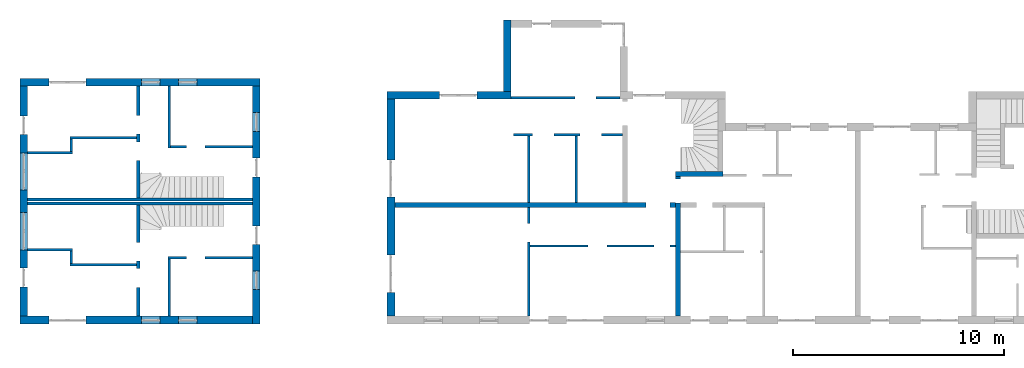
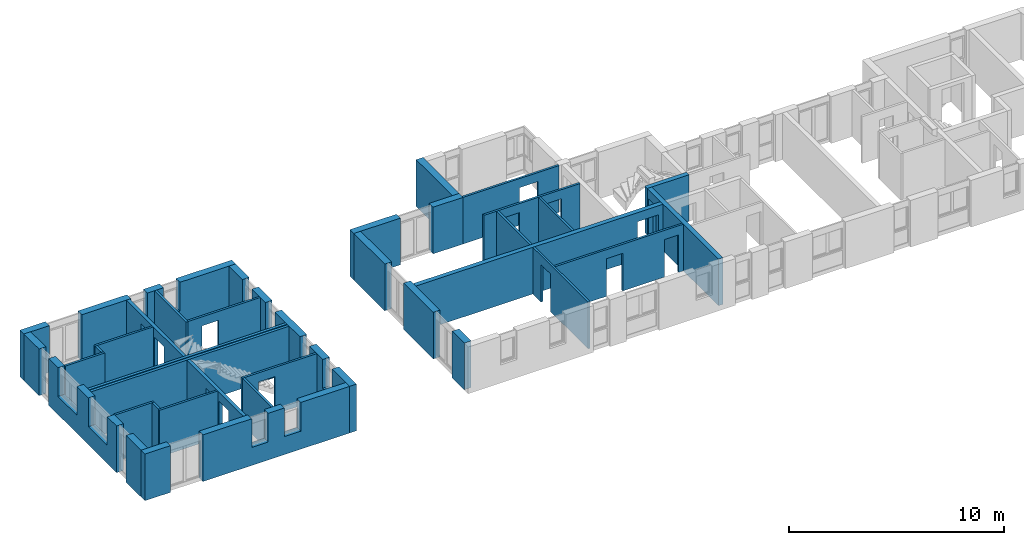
# One storey, part 1 of 42: 30 walls, 31 openings.
"""IFC2X3 building model written with IfcOpenShell, lengths in millimetres."""

from ifc_helpers import new_model, entity, si_unit, converted_unit, frame, frame_2d, origin, origin_with_axes, place, context, subcontext, project, spatial, polyline, rectangle, outline, extrude, material, layer, layer_set, layer_usage, element, save


model = new_model("IFC2X3")

# Units and contexts
model_context = context("Model", 3, precision=1e-05, world=origin())
body_context = subcontext(model_context, "Body", "Model", "MODEL_VIEW")
ifc_project = project(units=[si_unit("LENGTHUNIT", "METRE", prefix="MILLI"), converted_unit("PLANEANGLEUNIT", "DEGREE", entity("IfcPlaneAngleMeasure", 0.0174532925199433), si_unit("PLANEANGLEUNIT", "RADIAN"), dimensions=[0, 0, 0, 0, 0, 0, 0]), si_unit("AREAUNIT", "SQUARE_METRE"), si_unit("VOLUMEUNIT", "CUBIC_METRE")], contexts=[model_context])

# Building, storey
building_placement = place(None, origin())
building = spatial("IfcBuilding", under=ifc_project, at=building_placement, Name="Gebäude", CompositionType="ELEMENT")
storey_placement = place(building_placement, frame((0.0, 0.0, 2730.0), z_axis=(0.0, 0.0, 1.0), x_axis=(1.0, 0.0, 0.0)))
storey = spatial("IfcBuildingStorey", under=building, at=storey_placement, Name="OG.- Grundriss", CompositionType="ELEMENT", Elevation=2730.0)

# Wall, openings
ifc_material_1 = material(Name="Poroton")
ifc_layer_1 = layer(ifc_material_1, 365.0000000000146)
ifc_layer_set_1 = layer_set([ifc_layer_1])
ifc_layer_usage_1 = layer_usage(ifc_layer_set_1, "AXIS2", "POSITIVE", 0.0)
wall_1_placement = place(storey_placement, frame((130992.7928067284, 125274.8877324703, 0.0), z_axis=(0.0, 0.0, 1.0), x_axis=(1.0, -2.749253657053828e-11, 0.0)))
wall_1 = element("IfcWallStandardCase", 1, at=wall_1_placement, inside=storey, material=ifc_layer_usage_1, Name="<Unnamed Element>", context=body_context, shape_type="SweptSolid", body=[
    extrude(rectangle(XDim=10999.99999999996, YDim=365.0000000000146, at=frame_2d((5499.999999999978, 182.5000000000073), x_axis=(1.0, 0.0))), origin_with_axes(), (0.0, 0.0, 1.0), 2650.0),
])
opening_1_placement = place(wall_1_placement, frame((1364.999999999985, -7.494236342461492e-12, 0.0), z_axis=(0.0, 1.0, 0.0), x_axis=(0.0, 0.0, 1.0)))
element("IfcOpeningElement", 2, at=opening_1_placement, cuts=wall_1, Name="Fensteröffnung", ObjectType="Opening", context=body_context, shape_type="SweptSolid", body=[
    extrude(rectangle(XDim=2650.0, YDim=1760.0, at=frame_2d((1325.0, 880.0), x_axis=(1.0, 0.0))), origin_with_axes(), (0.0, 0.0, 1.0), 365.0000000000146),
])
opening_2_placement = place(wall_1_placement, frame((7489.999999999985, -3.477907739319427e-11, 1020.0), z_axis=(0.0, 1.0, 0.0), x_axis=(0.0, 0.0, 1.0)))
element("IfcOpeningElement", 3, at=opening_2_placement, cuts=wall_1, Name="Fensteröffnung", ObjectType="Opening", context=body_context, shape_type="SweptSolid", body=[
    extrude(rectangle(XDim=1630.0, YDim=885.0, at=frame_2d((815.0, 442.5), x_axis=(1.0, 0.0))), origin_with_axes(), (0.0, 0.0, 1.0), 365.0000000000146),
])
opening_3_placement = place(wall_1_placement, frame((5739.999999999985, -1.658918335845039e-11, 1020.0), z_axis=(0.0, 1.0, 0.0), x_axis=(0.0, 0.0, 1.0)))
element("IfcOpeningElement", 4, at=opening_3_placement, cuts=wall_1, Name="Fensteröffnung", ObjectType="Opening", context=body_context, shape_type="SweptSolid", body=[
    extrude(rectangle(XDim=1630.0, YDim=885.0, at=frame_2d((815.0, 442.5), x_axis=(1.0, 0.0))), origin_with_axes(), (0.0, 0.0, 1.0), 365.0000000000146),
])

ifc_material_2 = material(Name="Poroton")
ifc_layer_2 = layer(ifc_material_2, 365.0000000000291)
ifc_layer_set_2 = layer_set([ifc_layer_2])
ifc_layer_usage_2 = layer_usage(ifc_layer_set_2, "AXIS2", "POSITIVE", 0.0)
wall_2_placement = place(storey_placement, frame((142357.7928067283, 136889.8877324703, 0.0), z_axis=(0.0, 0.0, 1.0), x_axis=(-1.0, 0.0, 0.0)))
wall_2 = element("IfcWallStandardCase", 5, at=wall_2_placement, inside=storey, material=ifc_layer_usage_2, Name="<Unnamed Element>", context=body_context, shape_type="SweptSolid", body=[
    extrude(rectangle(XDim=11365.00000000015, YDim=365.0000000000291, at=frame_2d((5682.500000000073, 182.5000000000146), x_axis=(1.0, 0.0))), origin_with_axes(), (0.0, 0.0, 1.0), 2650.0),
])
opening_4_placement = place(wall_2_placement, frame((8240.0, 0.0, 0.0), z_axis=(0.0, 1.0, 0.0), x_axis=(0.0, 0.0, 1.0)))
element("IfcOpeningElement", 6, at=opening_4_placement, cuts=wall_2, Name="Fensteröffnung", ObjectType="Opening", context=body_context, shape_type="SweptSolid", body=[
    extrude(rectangle(XDim=2650.0, YDim=1760.0, at=frame_2d((1325.0, 880.0), x_axis=(1.0, 0.0))), origin_with_axes(), (0.0, 0.0, 1.0), 365.0000000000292),
])
opening_5_placement = place(wall_2_placement, frame((2990.0, 0.0, 1020.0), z_axis=(0.0, 1.0, 0.0), x_axis=(0.0, 0.0, 1.0)))
element("IfcOpeningElement", 7, at=opening_5_placement, cuts=wall_2, Name="Fensteröffnung", ObjectType="Opening", context=body_context, shape_type="SweptSolid", body=[
    extrude(rectangle(XDim=1630.0, YDim=885.0, at=frame_2d((815.0, 442.5), x_axis=(1.0, 0.0))), origin_with_axes(), (0.0, 0.0, 1.0), 365.0000000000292),
])
opening_6_placement = place(wall_2_placement, frame((4740.0, 0.0, 1020.0), z_axis=(0.0, 1.0, 0.0), x_axis=(0.0, 0.0, 1.0)))
element("IfcOpeningElement", 8, at=opening_6_placement, cuts=wall_2, Name="Fensteröffnung", ObjectType="Opening", context=body_context, shape_type="SweptSolid", body=[
    extrude(rectangle(XDim=1630.0, YDim=885.0, at=frame_2d((815.0, 442.5), x_axis=(1.0, 0.0))), origin_with_axes(), (0.0, 0.0, 1.0), 365.0000000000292),
])

ifc_material_3 = material(Name="Poroton")
ifc_layer_3 = layer(ifc_material_3, 365.0000000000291)
ifc_layer_set_3 = layer_set([ifc_layer_3])
ifc_layer_usage_3 = layer_usage(ifc_layer_set_3, "AXIS2", "POSITIVE", 0.0)
wall_3_placement = place(storey_placement, frame((142357.7928067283, 125274.8877321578, 0.0), z_axis=(0.0, 0.0, 1.0), x_axis=(0.0, 1.0, 0.0)))
wall_3 = element("IfcWallStandardCase", 9, at=wall_3_placement, inside=storey, material=ifc_layer_usage_3, Name="<Unnamed Element>", context=body_context, shape_type="SweptSolid", body=[
    extrude(rectangle(XDim=11250.00000031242, YDim=365.0000000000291, at=frame_2d((5625.000000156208, 182.5000000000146), x_axis=(1.0, 0.0))), origin_with_axes(), (0.0, 0.0, 1.0), 2650.0),
])
opening_7_placement = place(wall_3_placement, frame((3750.0, 0.0, 0.0), z_axis=(0.0, 1.0, 0.0), x_axis=(0.0, 0.0, 1.0)))
element("IfcOpeningElement", 10, at=opening_7_placement, cuts=wall_3, Name="Fensteröffnung", ObjectType="Opening", context=body_context, shape_type="SweptSolid", body=[
    extrude(rectangle(XDim=2650.0, YDim=885.0, at=frame_2d((1325.0, 442.5), x_axis=(1.0, 0.0))), origin_with_axes(), (0.0, 0.0, 1.0), 365.0000000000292),
])
opening_8_placement = place(wall_3_placement, frame((6955.000000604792, 0.0, 0.0), z_axis=(0.0, 1.0, 0.0), x_axis=(0.0, 0.0, 1.0)))
element("IfcOpeningElement", 11, at=opening_8_placement, cuts=wall_3, Name="Fensteröffnung", ObjectType="Opening", context=body_context, shape_type="SweptSolid", body=[
    extrude(rectangle(XDim=2650.0, YDim=885.0, at=frame_2d((1325.0, 442.5), x_axis=(1.0, 0.0))), origin_with_axes(), (0.0, 0.0, 1.0), 365.0000000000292),
])
opening_9_placement = place(wall_3_placement, frame((9105.000000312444, 0.0, 1020.0), z_axis=(0.0, 1.0, 0.0), x_axis=(0.0, 0.0, 1.0)))
element("IfcOpeningElement", 12, at=opening_9_placement, cuts=wall_3, Name="Fensteröffnung", ObjectType="Opening", context=body_context, shape_type="SweptSolid", body=[
    extrude(rectangle(XDim=1630.0, YDim=885.0, at=frame_2d((815.0, 442.5), x_axis=(1.0, 0.0))), origin_with_axes(), (0.0, 0.0, 1.0), 365.0000000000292),
])
opening_10_placement = place(wall_3_placement, frame((1625.0, 0.0, 1020.0), z_axis=(0.0, 1.0, 0.0), x_axis=(0.0, 0.0, 1.0)))
element("IfcOpeningElement", 13, at=opening_10_placement, cuts=wall_3, Name="Fensteröffnung", ObjectType="Opening", context=body_context, shape_type="SweptSolid", body=[
    extrude(rectangle(XDim=1630.0, YDim=885.0, at=frame_2d((815.0, 442.5), x_axis=(1.0, 0.0))), origin_with_axes(), (0.0, 0.0, 1.0), 365.0000000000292),
])

ifc_material_4 = material(Name="Poroton")
ifc_layer_4 = layer(ifc_material_4, 365.0)
ifc_layer_set_4 = layer_set([ifc_layer_4])
ifc_layer_usage_4 = layer_usage(ifc_layer_set_4, "AXIS2", "POSITIVE", 0.0)
wall_4_placement = place(storey_placement, frame((148357.7928067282, 135909.8877324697, 0.0), z_axis=(0.0, 0.0, 1.0), x_axis=(1.70032115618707e-14, -1.0, 0.0)))
wall_4 = element("IfcWallStandardCase", 14, at=wall_4_placement, inside=storey, material=ifc_layer_usage_4, Name="<Unnamed Element>", context=body_context, shape_type="SweptSolid", body=[
    extrude(rectangle(XDim=10269.99999999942, YDim=365.0, at=frame_2d((5134.999999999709, 182.5), x_axis=(1.0, 0.0))), origin_with_axes(), (0.0, 0.0, 1.0), 2650.0),
])
opening_11_placement = place(wall_4_placement, frame((2874.999999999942, -2.54658516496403e-11, 0.0), z_axis=(0.0, 1.0, 0.0), x_axis=(0.0, 0.0, 1.0)))
element("IfcOpeningElement", 15, at=opening_11_placement, cuts=wall_4, Name="Fensteröffnung", ObjectType="Opening", context=body_context, shape_type="SweptSolid", body=[
    extrude(rectangle(XDim=2650.0, YDim=1760.0, at=frame_2d((1325.0, 880.0), x_axis=(1.0, 0.0))), origin_with_axes(), (0.0, 0.0, 1.0), 365.0),
])
opening_12_placement = place(wall_4_placement, frame((7384.999999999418, -9.851646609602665e-11, 0.0), z_axis=(0.0, 1.0, 0.0), x_axis=(0.0, 0.0, 1.0)))
element("IfcOpeningElement", 16, at=opening_12_placement, cuts=wall_4, Name="Fensteröffnung", ObjectType="Opening", context=body_context, shape_type="SweptSolid", body=[
    extrude(rectangle(XDim=2650.0, YDim=1760.0, at=frame_2d((1325.0, 880.0), x_axis=(1.0, 0.0))), origin_with_axes(), (0.0, 0.0, 1.0), 365.0),
])

# Wall
ifc_material_5 = material(Name="Poroton")
ifc_layer_5 = layer(ifc_material_5, 365.0000000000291)
ifc_layer_set_5 = layer_set([ifc_layer_5])
ifc_layer_usage_5 = layer_usage(ifc_layer_set_5, "AXIS2", "POSITIVE", 0.0)
wall_5_placement = place(storey_placement, frame((154222.7928067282, 136274.8877324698, 0.0), z_axis=(0.0, 0.0, 1.0), x_axis=(0.0, 1.0, 0.0)))
element("IfcWallStandardCase", 17, at=wall_5_placement, inside=storey, material=ifc_layer_usage_5, Name="<Unnamed Element>", context=body_context, shape_type="SweptSolid", body=[
    extrude(rectangle(XDim=3374.999999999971, YDim=365.0000000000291, at=frame_2d((1687.499999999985, 182.5000000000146), x_axis=(1.0, 0.0))), origin_with_axes(), (0.0, 0.0, 1.0), 2650.0),
])

# Wall, opening
ifc_material_6 = material(Name="Poroton")
ifc_layer_6 = layer(ifc_material_6, 365.0000000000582)
ifc_layer_set_6 = layer_set([ifc_layer_6])
ifc_layer_usage_6 = layer_usage(ifc_layer_set_6, "AXIS2", "POSITIVE", 0.0)
wall_6_placement = place(storey_placement, frame((154222.7928067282, 136274.8877324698, 0.0), z_axis=(0.0, 0.0, 1.0), x_axis=(-1.0, 0.0, 0.0)))
wall_6 = element("IfcWallStandardCase", 18, at=wall_6_placement, inside=storey, material=ifc_layer_usage_6, Name="<Unnamed Element>", context=body_context, shape_type="SweptSolid", body=[
    extrude(rectangle(XDim=5865.0, YDim=365.0000000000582, at=frame_2d((2932.5, 182.5000000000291), x_axis=(1.0, 0.0))), origin_with_axes(), (0.0, 0.0, 1.0), 2650.0),
])
opening_13_placement = place(wall_6_placement, frame((1615.0, 0.0, 0.0), z_axis=(0.0, 1.0, 0.0), x_axis=(0.0, 0.0, 1.0)))
element("IfcOpeningElement", 19, at=opening_13_placement, cuts=wall_6, Name="Fensteröffnung", ObjectType="Opening", context=body_context, shape_type="SweptSolid", body=[
    extrude(rectangle(XDim=2650.0, YDim=1760.0, at=frame_2d((1325.0, 880.0), x_axis=(1.0, 0.0))), origin_with_axes(), (0.0, 0.0, 1.0), 365.0000000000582),
])

# Wall
ifc_material_7 = material(Name="Hlz")
ifc_layer_7 = layer(ifc_material_7, 150.0)
ifc_layer_set_7 = layer_set([ifc_layer_7])
ifc_layer_usage_7 = layer_usage(ifc_layer_set_7, "AXIS2", "POSITIVE", 0.0)
wall_7_placement = place(storey_placement, frame((141992.7928067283, 131049.8877324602, 0.0), z_axis=(0.0, 0.0, 1.0), x_axis=(-1.0, 0.0, 0.0)))
element("IfcWallStandardCase", 20, at=wall_7_placement, inside=storey, material=ifc_layer_usage_7, Name="<Unnamed Element>", context=body_context, shape_type="SweptSolid", body=[
    extrude(rectangle(XDim=10634.99999999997, YDim=150.0, at=frame_2d((5317.499999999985, 75.0), x_axis=(1.0, 0.0))), origin_with_axes(), (0.0, 0.0, 1.0), 2650.0),
])

# Wall, openings
ifc_material_8 = material(Name="Poroton")
ifc_layer_8 = layer(ifc_material_8, 365.0)
ifc_layer_set_8 = layer_set([ifc_layer_8])
ifc_layer_usage_8 = layer_usage(ifc_layer_set_8, "AXIS2", "POSITIVE", 0.0)
wall_8_placement = place(storey_placement, frame((130992.7928067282, 136524.8877324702, 0.0), z_axis=(0.0, 0.0, 1.0), x_axis=(1.336877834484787e-14, -1.0, 0.0)))
wall_8 = element("IfcWallStandardCase", 21, at=wall_8_placement, inside=storey, material=ifc_layer_usage_8, Name="<Unnamed Element>", context=body_context, shape_type="SweptSolid", body=[
    extrude(rectangle(XDim=10884.99999999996, YDim=365.0, at=frame_2d((5442.499999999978, 182.5), x_axis=(1.0, 0.0))), origin_with_axes(), (0.0, 0.0, 1.0), 2650.0),
])
opening_14_placement = place(wall_8_placement, frame((5989.999999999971, 1.455191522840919e-13, 1020.0), z_axis=(0.0, 1.0, 0.0), x_axis=(0.0, 0.0, 1.0)))
element("IfcOpeningElement", 22, at=opening_14_placement, cuts=wall_8, Name="Fensteröffnung", ObjectType="Opening", context=body_context, shape_type="SweptSolid", body=[
    extrude(rectangle(XDim=1630.0, YDim=1760.0, at=frame_2d((815.0, 880.0), x_axis=(1.0, 0.0))), origin_with_axes(), (0.0, 0.0, 1.0), 365.0000000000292),
])
opening_15_placement = place(wall_8_placement, frame((8614.99999999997, -8.949427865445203e-12, 0.0), z_axis=(0.0, 1.0, 0.0), x_axis=(0.0, 0.0, 1.0)))
element("IfcOpeningElement", 23, at=opening_15_placement, cuts=wall_8, Name="Fensteröffnung", ObjectType="Opening", context=body_context, shape_type="SweptSolid", body=[
    extrude(rectangle(XDim=2650.0, YDim=885.0, at=frame_2d((1325.0, 442.5), x_axis=(1.0, 0.0))), origin_with_axes(), (0.0, 0.0, 1.0), 364.9999999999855),
])
opening_16_placement = place(wall_8_placement, frame((3159.987487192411, -1.688003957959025e-11, 1020.0), z_axis=(0.0, 1.0, 0.0), x_axis=(0.0, 0.0, 1.0)))
element("IfcOpeningElement", 24, at=opening_16_placement, cuts=wall_8, Name="Fensteröffnung", ObjectType="Opening", context=body_context, shape_type="SweptSolid", body=[
    extrude(rectangle(XDim=1630.0, YDim=1760.0, at=frame_2d((815.0, 880.0), x_axis=(1.0, 0.0))), origin_with_axes(), (0.0, 0.0, 1.0), 365.0),
])
opening_17_placement = place(wall_8_placement, frame((1409.987487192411, -5.966103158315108e-12, 0.0), z_axis=(0.0, 1.0, 0.0), x_axis=(0.0, 0.0, 1.0)))
element("IfcOpeningElement", 25, at=opening_17_placement, cuts=wall_8, Name="Fensteröffnung", ObjectType="Opening", context=body_context, shape_type="SweptSolid", body=[
    extrude(rectangle(XDim=2650.0, YDim=885.0, at=frame_2d((1325.0, 442.5), x_axis=(1.0, 0.0))), origin_with_axes(), (0.0, 0.0, 1.0), 365.0),
])

# Wall
ifc_material_9 = material(Name="Hlz")
ifc_layer_9 = layer(ifc_material_9, 150.0)
ifc_layer_set_9 = layer_set([ifc_layer_9])
ifc_layer_usage_9 = layer_usage(ifc_layer_set_9, "AXIS2", "POSITIVE", 0.0)
wall_9_placement = place(storey_placement, frame((141992.7928067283, 131239.8877324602, 0.0), z_axis=(0.0, 0.0, 1.0), x_axis=(-1.0, 0.0, 0.0)))
element("IfcWallStandardCase", 26, at=wall_9_placement, inside=storey, material=ifc_layer_usage_9, Name="<Unnamed Element>", context=body_context, shape_type="SweptSolid", body=[
    extrude(rectangle(XDim=10634.99999999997, YDim=150.0, at=frame_2d((5317.499999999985, 75.0), x_axis=(1.0, 0.0))), origin_with_axes(), (0.0, 0.0, 1.0), 2650.0),
])

# Wall, opening
ifc_material_10 = material(Name="Hlz")
ifc_layer_10 = layer(ifc_material_10, 115.0)
ifc_layer_set_10 = layer_set([ifc_layer_10])
ifc_layer_usage_10 = layer_usage(ifc_layer_set_10, "AXIS2", "POSITIVE", 0.0)
wall_10_placement = place(storey_placement, frame((154222.7928067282, 135909.8877324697, 0.0), z_axis=(0.0, 0.0, 1.0), x_axis=(1.0, 0.0, 0.0)))
wall_10 = element("IfcWallStandardCase", 27, at=wall_10_placement, inside=storey, material=ifc_layer_usage_10, Name="<Unnamed Element>", context=body_context, shape_type="SweptSolid", body=[
    extrude(rectangle(XDim=5155.000000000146, YDim=115.0, at=frame_2d((2577.500000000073, 57.5), x_axis=(1.0, 0.0))), origin_with_axes(), (0.0, 0.0, 1.0), 2650.0),
])
opening_18_placement = place(wall_10_placement, frame((3020.000000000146, 0.0, 0.0), z_axis=(0.0, 1.0, 0.0), x_axis=(0.0, 0.0, 1.0)))
element("IfcOpeningElement", 28, at=opening_18_placement, cuts=wall_10, Name="Türöffnung", ObjectType="Opening", context=body_context, shape_type="SweptSolid", body=[
    extrude(rectangle(XDim=2135.0, YDim=1010.0, at=frame_2d((1067.5, 505.0), x_axis=(1.0, 0.0))), origin_with_axes(), (0.0, 0.0, 1.0), 115.0),
])

# Wall, openings
ifc_material_11 = material(Name="Hlz")
ifc_layer_11 = layer(ifc_material_11, 115.0)
ifc_layer_set_11 = layer_set([ifc_layer_11])
ifc_layer_usage_11 = layer_usage(ifc_layer_set_11, "AXIS2", "POSITIVE", 0.0)
wall_11_placement = place(storey_placement, frame((162002.7928067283, 129014.8877324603, 0.0), z_axis=(0.0, 0.0, 1.0), x_axis=(-1.0, 0.0, 0.0)))
wall_11 = element("IfcWallStandardCase", 29, at=wall_11_placement, inside=storey, material=ifc_layer_usage_11, Name="<Unnamed Element>", context=body_context, shape_type="SweptSolid", body=[
    extrude(rectangle(XDim=6885.0, YDim=115.0, at=frame_2d((3442.5, 57.5), x_axis=(1.0, 0.0))), origin_with_axes(), (0.0, 0.0, 1.0), 2650.0),
])
opening_19_placement = place(wall_11_placement, frame((250.0, 0.0, 0.0), z_axis=(0.0, 1.0, 0.0), x_axis=(0.0, 0.0, 1.0)))
element("IfcOpeningElement", 30, at=opening_19_placement, cuts=wall_11, Name="Türöffnung", ObjectType="Opening", context=body_context, shape_type="SweptSolid", body=[
    extrude(rectangle(XDim=2135.0, YDim=760.0, at=frame_2d((1067.5, 380.0), x_axis=(1.0, 0.0))), origin_with_axes(), (0.0, 0.0, 1.0), 115.0),
])
opening_20_placement = place(wall_11_placement, frame((3250.0, 0.0, 0.0), z_axis=(0.0, 1.0, 0.0), x_axis=(0.0, 0.0, 1.0)))
element("IfcOpeningElement", 31, at=opening_20_placement, cuts=wall_11, Name="Türöffnung", ObjectType="Opening", context=body_context, shape_type="SweptSolid", body=[
    extrude(rectangle(XDim=2135.0, YDim=885.0, at=frame_2d((1067.5, 442.5), x_axis=(1.0, 0.0))), origin_with_axes(), (0.0, 0.0, 1.0), 115.0),
])

ifc_material_12 = material(Name="Hlz")
ifc_layer_12 = layer(ifc_material_12, 115.0)
ifc_layer_set_12 = layer_set([ifc_layer_12])
ifc_layer_usage_12 = layer_usage(ifc_layer_set_12, "AXIS2", "POSITIVE", 0.0)
wall_12_placement = place(storey_placement, frame((159502.7928067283, 134274.8877324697, 0.0), z_axis=(0.0, 0.0, 1.0), x_axis=(-1.0, 0.0, 0.0)))
wall_12 = element("IfcWallStandardCase", 32, at=wall_12_placement, inside=storey, material=ifc_layer_usage_12, Name="<Unnamed Element>", context=body_context, shape_type="SweptSolid", body=[
    extrude(rectangle(XDim=5169.228627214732, YDim=115.0, at=frame_2d((2584.614313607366, 57.5), x_axis=(1.0, 0.0))), origin_with_axes(), (0.0, 0.0, 1.0), 2650.0),
])
opening_21_placement = place(wall_12_placement, frame((3255.0, 0.0, 0.0), z_axis=(0.0, 1.0, 0.0), x_axis=(0.0, 0.0, 1.0)))
element("IfcOpeningElement", 33, at=opening_21_placement, cuts=wall_12, Name="Türöffnung", ObjectType="Opening", context=body_context, shape_type="SweptSolid", body=[
    extrude(rectangle(XDim=2135.0, YDim=1010.0, at=frame_2d((1067.5, 505.0), x_axis=(1.0, 0.0))), origin_with_axes(), (0.0, 0.0, 1.0), 115.0),
])
opening_22_placement = place(wall_12_placement, frame((1000.0, 0.0, 0.0), z_axis=(0.0, 1.0, 0.0), x_axis=(0.0, 0.0, 1.0)))
element("IfcOpeningElement", 34, at=opening_22_placement, cuts=wall_12, Name="Türöffnung", ObjectType="Opening", context=body_context, shape_type="SweptSolid", body=[
    extrude(rectangle(XDim=2135.0, YDim=1010.0, at=frame_2d((1067.5, 505.0), x_axis=(1.0, 0.0))), origin_with_axes(), (0.0, 0.0, 1.0), 115.0),
])

# Walls
ifc_material_13 = material(Name="Hlz")
ifc_layer_13 = layer(ifc_material_13, 115.0)
ifc_layer_set_13 = layer_set([ifc_layer_13])
ifc_layer_usage_13 = layer_usage(ifc_layer_set_13, "AXIS2", "POSITIVE", 0.0)
wall_13_placement = place(storey_placement, frame((157367.7928067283, 131014.8877324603, 0.0), z_axis=(0.0, 0.0, 1.0), x_axis=(0.0, 0.9999999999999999, 0.0)))
element("IfcWallStandardCase", 35, at=wall_13_placement, inside=storey, material=ifc_layer_usage_13, Name="<Unnamed Element>", context=body_context, shape_type="SweptSolid", body=[
    extrude(rectangle(XDim=3145.000000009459, YDim=115.0, at=frame_2d((1572.500000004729, 57.49999999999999), x_axis=(1.0, 0.0))), origin_with_axes(), (0.0, 0.0, 1.0), 2650.0),
])
ifc_material_14 = material(Name="Hlz")
ifc_layer_14 = layer(ifc_material_14, 115.0)
ifc_layer_set_14 = layer_set([ifc_layer_14])
ifc_layer_usage_14 = layer_usage(ifc_layer_set_14, "AXIS2", "POSITIVE", 0.0)
wall_14_placement = place(storey_placement, frame((155117.7928067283, 131014.8877324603, 0.0), z_axis=(0.0, 0.0, 1.0), x_axis=(0.0, 0.9999999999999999, 0.0)))
element("IfcWallStandardCase", 36, at=wall_14_placement, inside=storey, material=ifc_layer_usage_14, Name="<Unnamed Element>", context=body_context, shape_type="SweptSolid", body=[
    extrude(rectangle(XDim=3145.000000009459, YDim=115.0, at=frame_2d((1572.500000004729, 57.49999999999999), x_axis=(1.0, 0.0))), origin_with_axes(), (0.0, 0.0, 1.0), 2650.0),
])

# Wall, opening
ifc_material_15 = material(Name="Hlz")
ifc_layer_15 = layer(ifc_material_15, 115.0)
ifc_layer_set_15 = layer_set([ifc_layer_15])
ifc_layer_usage_15 = layer_usage(ifc_layer_set_15, "AXIS2", "POSITIVE", 0.0)
wall_15_placement = place(storey_placement, frame((155117.7928067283, 125639.8877322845, 0.0), z_axis=(0.0, 0.0, 1.0), x_axis=(0.0, 0.9999999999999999, 0.0)))
wall_15 = element("IfcWallStandardCase", 37, at=wall_15_placement, inside=storey, material=ifc_layer_usage_15, Name="<Unnamed Element>", context=body_context, shape_type="SweptSolid", body=[
    extrude(rectangle(XDim=5135.000000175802, YDim=115.0, at=frame_2d((2567.500000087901, 57.49999999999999), x_axis=(1.0, 0.0))), origin_with_axes(), (0.0, 0.0, 1.0), 2650.0),
])
opening_23_placement = place(wall_15_placement, frame((3500.000332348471, 0.0, 0.0), z_axis=(0.0, 1.0, 0.0), x_axis=(0.0, 0.0, 1.0)))
element("IfcOpeningElement", 38, at=opening_23_placement, cuts=wall_15, Name="Türöffnung", ObjectType="Opening", context=body_context, shape_type="SweptSolid", body=[
    extrude(rectangle(XDim=2135.0, YDim=885.0, at=frame_2d((1067.5, 442.5), x_axis=(1.0, 0.0))), origin_with_axes(), (0.0, 0.0, 1.0), 115.0),
])

ifc_material_16 = material(Name="Hlz")
ifc_layer_16 = layer(ifc_material_16, 240.0)
ifc_layer_set_16 = layer_set([ifc_layer_16])
ifc_layer_usage_16 = layer_usage(ifc_layer_set_16, "AXIS2", "POSITIVE", 0.0)
wall_16_placement = place(storey_placement, frame((148722.7928067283, 130774.8877324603, 0.0), z_axis=(0.0, 0.0, 1.0), x_axis=(1.0, 0.0, 0.0)))
wall_16 = element("IfcWallStandardCase", 39, at=wall_16_placement, inside=storey, material=ifc_layer_usage_16, Name="<Unnamed Element>", context=body_context, shape_type="SweptSolid", body=[
    extrude(outline(polyline([(0.0, 0.0), (13280.00000000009, 0.0), (13280.00000000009, 240.0), (0.0, 240.0), (0.0, 0.0)])), origin_with_axes(), (0.0, 0.0, 1.0), 2650.0),
])
opening_24_placement = place(wall_16_placement, frame((11895.00000000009, 0.0, 0.0), z_axis=(0.0, 1.0, 0.0), x_axis=(0.0, 0.0, 1.0)))
element("IfcOpeningElement", 40, at=opening_24_placement, cuts=wall_16, Name="Türöffnung", ObjectType="Opening", context=body_context, shape_type="SweptSolid", body=[
    extrude(rectangle(XDim=2135.0, YDim=1135.0, at=frame_2d((1067.5, 567.5), x_axis=(1.0, 0.0))), origin_with_axes(), (0.0, 0.0, 1.0), 240.0),
])

ifc_material_17 = material(Name="Hlz")
ifc_layer_17 = layer(ifc_material_17, 240.0)
ifc_layer_set_17 = layer_set([ifc_layer_17])
ifc_layer_usage_17 = layer_usage(ifc_layer_set_17, "AXIS2", "POSITIVE", 0.0)
wall_17_placement = place(storey_placement, frame((162242.7928067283, 125639.8877321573, 0.0), z_axis=(0.0, 0.0, 1.0), x_axis=(0.0, 1.0, 0.0)))
wall_17 = element("IfcWallStandardCase", 41, at=wall_17_placement, inside=storey, material=ifc_layer_usage_17, Name="<Unnamed Element>", context=body_context, shape_type="SweptSolid", body=[
    extrude(rectangle(XDim=6605.00000031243, YDim=240.0, at=frame_2d((3302.500000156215, 120.0), x_axis=(1.0, 0.0))), origin_with_axes(), (0.0, 0.0, 1.0), 2650.0),
])
opening_25_placement = place(wall_17_placement, frame((5345.00000031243, 0.0, 0.0), z_axis=(0.0, 1.0, 0.0), x_axis=(0.0, 0.0, 1.0)))
element("IfcOpeningElement", 42, at=opening_25_placement, cuts=wall_17, Name="Türöffnung", ObjectType="Opening", context=body_context, shape_type="SweptSolid", body=[
    extrude(rectangle(XDim=2135.0, YDim=1135.0, at=frame_2d((1067.5, 567.5), x_axis=(1.0, 0.0))), origin_with_axes(), (0.0, 0.0, 1.0), 240.0),
])

# Wall
ifc_material_18 = material(Name="Hlz")
ifc_layer_18 = layer(ifc_material_18, 240.0)
ifc_layer_set_18 = layer_set([ifc_layer_18])
ifc_layer_usage_18 = layer_usage(ifc_layer_set_18, "AXIS2", "POSITIVE", 0.0)
wall_18_placement = place(storey_placement, frame((164242.7928067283, 132484.8877324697, 0.0), z_axis=(0.0, 0.0, 1.0), x_axis=(-1.0, 0.0, 0.0)))
element("IfcWallStandardCase", 43, at=wall_18_placement, inside=storey, material=ifc_layer_usage_18, Name="<Unnamed Element>", context=body_context, shape_type="SweptSolid", body=[
    extrude(rectangle(XDim=2240.0, YDim=240.0, at=frame_2d((1120.0, 120.0), x_axis=(1.0, 0.0))), origin_with_axes(), (0.0, 0.0, 1.0), 2650.0),
])

# Wall, openings
ifc_material_19 = material(Name="Hlz")
ifc_layer_19 = layer(ifc_material_19, 175.0)
ifc_layer_set_19 = layer_set([ifc_layer_19])
ifc_layer_usage_19 = layer_usage(ifc_layer_set_19, "AXIS2", "POSITIVE", 0.0)
wall_19_placement = place(storey_placement, frame((136492.792808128, 136524.8877324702, 0.0), z_axis=(0.0, 0.0, 1.0), x_axis=(0.0, -1.0, 0.0)))
wall_19 = element("IfcWallStandardCase", 44, at=wall_19_placement, inside=storey, material=ifc_layer_usage_19, Name="<Unnamed Element>", context=body_context, shape_type="SweptSolid", body=[
    extrude(outline(polyline([(2509.986601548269, 0.0), (5285.000000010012, 0.0), (5285.000000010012, 175.0), (0.0, 175.0), (0.0, 0.0), (2394.986601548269, 0.0), (2394.986601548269, 0.2888559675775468), (2509.986601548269, 0.2888559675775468), (2509.986601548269, 0.0)])), origin_with_axes(), (0.0, 0.0, 1.0), 2650.0),
])
opening_26_placement = place(wall_19_placement, frame((2634.986601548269, 0.0, 0.0), z_axis=(0.0, 1.0, 0.0), x_axis=(0.0, 0.0, 1.0)))
element("IfcOpeningElement", 45, at=opening_26_placement, cuts=wall_19, Name="Türöffnung", ObjectType="Opening", context=body_context, shape_type="SweptSolid", body=[
    extrude(rectangle(XDim=2135.0, YDim=885.0, at=frame_2d((1067.5, 442.5), x_axis=(1.0, 0.0))), origin_with_axes(), (0.0, 0.0, 1.0), 175.0),
])
opening_27_placement = place(wall_19_placement, frame((1384.986601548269, 0.0, 0.0), z_axis=(0.0, 1.0, 0.0), x_axis=(0.0, 0.0, 1.0)))
element("IfcOpeningElement", 46, at=opening_27_placement, cuts=wall_19, Name="Türöffnung", ObjectType="Opening", context=body_context, shape_type="SweptSolid", body=[
    extrude(rectangle(XDim=2135.0, YDim=885.0, at=frame_2d((1067.5, 442.5), x_axis=(1.0, 0.0))), origin_with_axes(), (0.0, 0.0, 1.0), 175.0),
])

ifc_material_20 = material(Name="Hlz")
ifc_layer_20 = layer(ifc_material_20, 175.0)
ifc_layer_set_20 = layer_set([ifc_layer_20])
ifc_layer_usage_20 = layer_usage(ifc_layer_set_20, "AXIS2", "POSITIVE", 0.0)
wall_20_placement = place(storey_placement, frame((136492.792808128, 130899.8877324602, 0.0), z_axis=(0.0, 0.0, 1.0), x_axis=(0.0, -1.0, 0.0)))
wall_20 = element("IfcWallStandardCase", 47, at=wall_20_placement, inside=storey, material=ifc_layer_usage_20, Name="<Unnamed Element>", context=body_context, shape_type="SweptSolid", body=[
    extrude(outline(polyline([(0.0, 0.0), (2775.013398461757, 0.0), (2775.013398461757, 0.2888559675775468), (2890.013398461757, 0.2888559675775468), (2890.013398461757, 0.0), (5260.000000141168, 0.0), (5260.00000014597, 175.0), (0.0, 175.0), (0.0, 0.0)])), origin_with_axes(), (0.0, 0.0, 1.0), 2650.0),
])
opening_28_placement = place(wall_20_placement, frame((3015.013398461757, 0.0, 0.0), z_axis=(0.0, 1.0, 0.0), x_axis=(0.0, 0.0, 1.0)))
element("IfcOpeningElement", 48, at=opening_28_placement, cuts=wall_20, Name="Türöffnung", ObjectType="Opening", context=body_context, shape_type="SweptSolid", body=[
    extrude(rectangle(XDim=2135.0, YDim=885.0, at=frame_2d((1067.5, 442.5), x_axis=(1.0, 0.0))), origin_with_axes(), (0.0, 0.0, 1.0), 175.0),
])
opening_29_placement = place(wall_20_placement, frame((1765.013398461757, 0.0, 0.0), z_axis=(0.0, 1.0, 0.0), x_axis=(0.0, 0.0, 1.0)))
element("IfcOpeningElement", 49, at=opening_29_placement, cuts=wall_20, Name="Türöffnung", ObjectType="Opening", context=body_context, shape_type="SweptSolid", body=[
    extrude(rectangle(XDim=2135.0, YDim=885.0, at=frame_2d((1067.5, 442.5), x_axis=(1.0, 0.0))), origin_with_axes(), (0.0, 0.0, 1.0), 175.0),
])

# Walls
ifc_material_21 = material(Name="Hlz")
ifc_layer_21 = layer(ifc_material_21, 115.0)
ifc_layer_set_21 = layer_set([ifc_layer_21])
ifc_layer_usage_21 = layer_usage(ifc_layer_set_21, "AXIS2", "POSITIVE", 0.0)
wall_21_placement = place(storey_placement, frame((136493.0816640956, 134129.901130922, 0.0), z_axis=(0.0, 0.0, 1.0), x_axis=(-0.9999999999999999, 0.0, 0.0)))
element("IfcWallStandardCase", 50, at=wall_21_placement, inside=storey, material=ifc_layer_usage_21, Name="<Unnamed Element>", context=body_context, shape_type="SweptSolid", body=[
    extrude(rectangle(XDim=3125.288857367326, YDim=115.0, at=frame_2d((1562.644428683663, 57.49999999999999), x_axis=(1.0, 0.0))), origin_with_axes(), (0.0, 0.0, 1.0), 2650.0),
])
ifc_material_22 = material(Name="Hlz")
ifc_layer_22 = layer(ifc_material_22, 115.0)
ifc_layer_set_22 = layer_set([ifc_layer_22])
ifc_layer_usage_22 = layer_usage(ifc_layer_set_22, "AXIS2", "POSITIVE", 0.0)
wall_22_placement = place(storey_placement, frame((133482.7928067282, 133424.4232496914, 0.0), z_axis=(0.0, 0.0, 1.0), x_axis=(-1.0, 0.0, 0.0)))
element("IfcWallStandardCase", 51, at=wall_22_placement, inside=storey, material=ifc_layer_usage_22, Name="<Unnamed Element>", context=body_context, shape_type="SweptSolid", body=[
    extrude(rectangle(XDim=2124.708908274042, YDim=115.0, at=frame_2d((1062.354454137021, 57.5), x_axis=(1.0, 0.0))), origin_with_axes(), (0.0, 0.0, 1.0), 2650.0),
])
ifc_material_23 = material(Name="Hlz")
ifc_layer_23 = layer(ifc_material_23, 115.0)
ifc_layer_set_23 = layer_set([ifc_layer_23])
ifc_layer_usage_23 = layer_usage(ifc_layer_set_23, "AXIS2", "POSITIVE", 0.0)
wall_23_placement = place(storey_placement, frame((133367.7928067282, 134014.901130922, 0.0), z_axis=(0.0, 0.0, 1.0), x_axis=(0.0, -1.0, 0.0)))
element("IfcWallStandardCase", 52, at=wall_23_placement, inside=storey, material=ifc_layer_usage_23, Name="<Unnamed Element>", context=body_context, shape_type="SweptSolid", body=[
    extrude(rectangle(XDim=590.4778812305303, YDim=115.0, at=frame_2d((295.2389406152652, 57.5), x_axis=(1.0, 0.0))), origin_with_axes(), (0.0, 0.0, 1.0), 2650.0),
])
ifc_material_24 = material(Name="Hlz")
ifc_layer_24 = layer(ifc_material_24, 115.0)
ifc_layer_set_24 = layer_set([ifc_layer_24])
ifc_layer_usage_24 = layer_usage(ifc_layer_set_24, "AXIS2", "POSITIVE", 0.0)
wall_24_placement = place(storey_placement, frame((138118.0837287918, 133587.3910193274, 0.0), z_axis=(0.0, 0.0, 1.0), x_axis=(0.0, 1.0, 0.0)))
element("IfcWallStandardCase", 53, at=wall_24_placement, inside=storey, material=ifc_layer_usage_24, Name="<Unnamed Element>", context=body_context, shape_type="SweptSolid", body=[
    extrude(rectangle(XDim=2937.496078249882, YDim=115.0, at=frame_2d((1468.748039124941, 57.5), x_axis=(1.0, 0.0))), origin_with_axes(), (0.0, 0.0, 1.0), 2650.0),
])

# Wall, opening
ifc_material_25 = material(Name="Hlz")
ifc_layer_25 = layer(ifc_material_25, 115.0)
ifc_layer_set_25 = layer_set([ifc_layer_25])
ifc_layer_usage_25 = layer_usage(ifc_layer_set_25, "AXIS2", "POSITIVE", 0.0)
wall_25_placement = place(storey_placement, frame((141992.7920327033, 133702.3910193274, 0.0), z_axis=(0.0, 0.0, 1.0), x_axis=(-1.0, 0.0, 0.0)))
wall_25 = element("IfcWallStandardCase", 54, at=wall_25_placement, inside=storey, material=ifc_layer_usage_25, Name="<Unnamed Element>", context=body_context, shape_type="SweptSolid", body=[
    extrude(rectangle(XDim=3874.708303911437, YDim=115.0, at=frame_2d((1937.354151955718, 57.5), x_axis=(1.0, 0.0))), origin_with_axes(), (0.0, 0.0, 1.0), 2650.0),
])
opening_30_placement = place(wall_25_placement, frame((2239.998451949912, 0.0, 0.0), z_axis=(0.0, 1.0, 0.0), x_axis=(0.0, 0.0, 1.0)))
element("IfcOpeningElement", 55, at=opening_30_placement, cuts=wall_25, Name="Türöffnung", ObjectType="Opening", context=body_context, shape_type="SweptSolid", body=[
    extrude(rectangle(XDim=2135.0, YDim=885.0, at=frame_2d((1067.5, 442.5), x_axis=(1.0, 0.0))), origin_with_axes(), (0.0, 0.0, 1.0), 115.0),
])

# Wall
ifc_material_26 = material(Name="Hlz")
ifc_layer_26 = layer(ifc_material_26, 115.0)
ifc_layer_set_26 = layer_set([ifc_layer_26])
ifc_layer_usage_26 = layer_usage(ifc_layer_set_26, "AXIS2", "POSITIVE", 0.0)
wall_26_placement = place(storey_placement, frame((138118.0837287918, 125639.8877322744, 0.0), z_axis=(0.0, 0.0, 1.0), x_axis=(0.0, 1.0, 0.0)))
element("IfcWallStandardCase", 56, at=wall_26_placement, inside=storey, material=ifc_layer_usage_26, Name="<Unnamed Element>", context=body_context, shape_type="SweptSolid", body=[
    extrude(rectangle(XDim=2697.50902685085, YDim=115.0, at=frame_2d((1348.754513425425, 57.5), x_axis=(1.0, 0.0))), origin_with_axes(), (0.0, 0.0, 1.0), 2650.0),
])

# Wall, opening
ifc_material_27 = material(Name="Hlz")
ifc_layer_27 = layer(ifc_material_27, 115.0)
ifc_layer_set_27 = layer_set([ifc_layer_27])
ifc_layer_usage_27 = layer_usage(ifc_layer_set_27, "AXIS2", "POSITIVE", 0.0)
wall_27_placement = place(storey_placement, frame((138003.0837287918, 128337.3967591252, 0.0), z_axis=(0.0, 0.0, 1.0), x_axis=(0.9999999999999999, 0.0, 0.0)))
wall_27 = element("IfcWallStandardCase", 57, at=wall_27_placement, inside=storey, material=ifc_layer_usage_27, Name="<Unnamed Element>", context=body_context, shape_type="SweptSolid", body=[
    extrude(rectangle(XDim=3989.708303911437, YDim=115.0, at=frame_2d((1994.854151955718, 57.49999999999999), x_axis=(1.0, 0.0))), origin_with_axes(), (0.0, 0.0, 1.0), 2650.0),
])
opening_31_placement = place(wall_27_placement, frame((864.7098519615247, 0.0, 0.0), z_axis=(0.0, 1.0, 0.0), x_axis=(0.0, 0.0, 1.0)))
element("IfcOpeningElement", 58, at=opening_31_placement, cuts=wall_27, Name="Türöffnung", ObjectType="Opening", context=body_context, shape_type="SweptSolid", body=[
    extrude(rectangle(XDim=2135.0, YDim=885.0, at=frame_2d((1067.5, 442.5), x_axis=(1.0, 0.0))), origin_with_axes(), (0.0, 0.0, 1.0), 115.0),
])

# Walls
ifc_material_28 = material(Name="Hlz")
ifc_layer_28 = layer(ifc_material_28, 115.0)
ifc_layer_set_28 = layer_set([ifc_layer_28])
ifc_layer_usage_28 = layer_usage(ifc_layer_set_28, "AXIS2", "POSITIVE", 0.0)
wall_28_placement = place(storey_placement, frame((133367.7928067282, 128009.8743339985, 0.0), z_axis=(0.0, 0.0, 1.0), x_axis=(0.9999999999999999, 0.0, 0.0)))
element("IfcWallStandardCase", 59, at=wall_28_placement, inside=storey, material=ifc_layer_usage_28, Name="<Unnamed Element>", context=body_context, shape_type="SweptSolid", body=[
    extrude(rectangle(XDim=3125.288857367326, YDim=115.0, at=frame_2d((1562.644428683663, 57.49999999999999), x_axis=(1.0, 0.0))), origin_with_axes(), (0.0, 0.0, 1.0), 2650.0),
])
ifc_material_29 = material(Name="Hlz")
ifc_layer_29 = layer(ifc_material_29, 115.0)
ifc_layer_set_29 = layer_set([ifc_layer_29])
ifc_layer_usage_29 = layer_usage(ifc_layer_set_29, "AXIS2", "POSITIVE", 0.0)
wall_29_placement = place(storey_placement, frame((131358.0838984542, 128715.352215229, 0.0), z_axis=(0.0, 0.0, 1.0), x_axis=(1.0, 0.0, 0.0)))
element("IfcWallStandardCase", 60, at=wall_29_placement, inside=storey, material=ifc_layer_usage_29, Name="<Unnamed Element>", context=body_context, shape_type="SweptSolid", body=[
    extrude(rectangle(XDim=2124.708908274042, YDim=115.0, at=frame_2d((1062.354454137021, 57.5), x_axis=(1.0, 0.0))), origin_with_axes(), (0.0, 0.0, 1.0), 2650.0),
])
ifc_material_30 = material(Name="Hlz")
ifc_layer_30 = layer(ifc_material_30, 115.0)
ifc_layer_set_30 = layer_set([ifc_layer_30])
ifc_layer_usage_30 = layer_usage(ifc_layer_set_30, "AXIS2", "POSITIVE", 0.0)
wall_30_placement = place(storey_placement, frame((133367.7928067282, 128715.352215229, 0.0), z_axis=(0.0, 0.0, 1.0), x_axis=(0.0, -1.0, 0.0)))
element("IfcWallStandardCase", 61, at=wall_30_placement, inside=storey, material=ifc_layer_usage_30, Name="<Unnamed Element>", context=body_context, shape_type="SweptSolid", body=[
    extrude(rectangle(XDim=590.4778812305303, YDim=115.0, at=frame_2d((295.2389406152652, 57.5), x_axis=(1.0, 0.0))), origin_with_axes(), (0.0, 0.0, 1.0), 2650.0),
])

save(model, "model.ifc")
